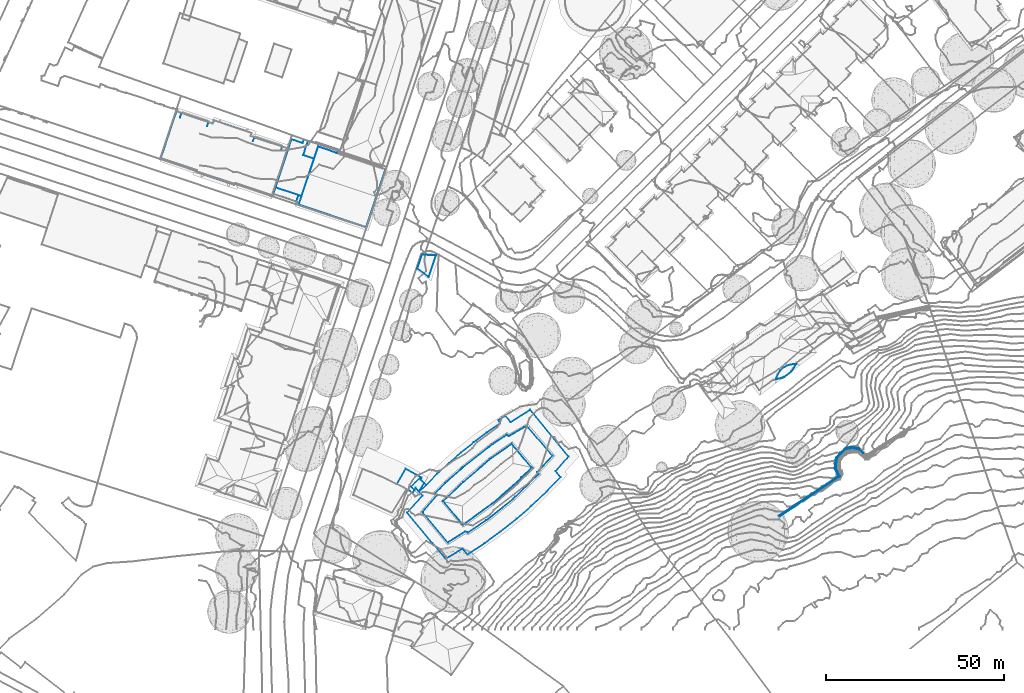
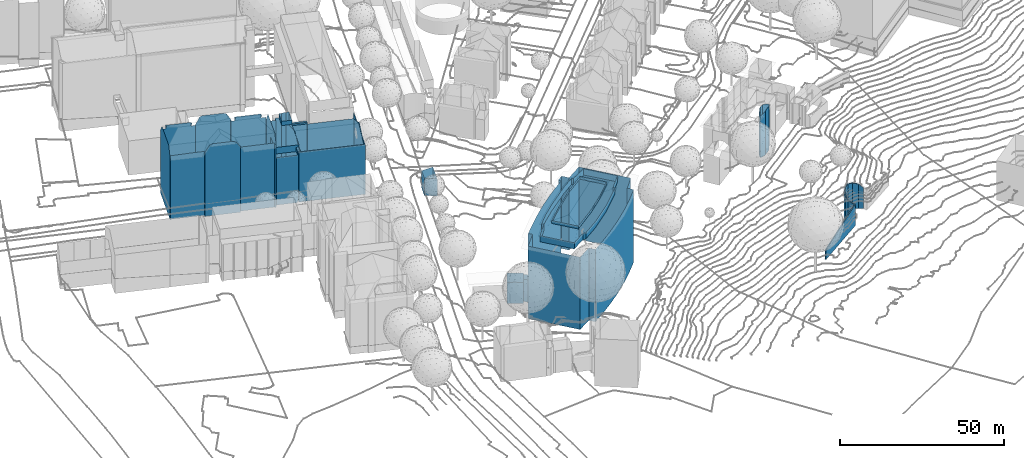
# Not in any storey, part 20 of 494: 6 walls.
"""IFC2X3 model written with IfcOpenShell, lengths in metres."""

from ifc_helpers import new_model, si_unit, frame, origin_with_axes, place, context, subcontext, project, faceted_brep, element, save


model = new_model("IFC2X3")

# Units and contexts
model_context = context("Model", 3, precision=1e-05, world=origin_with_axes())
body_context = subcontext(model_context, "Body", "Model", "MODEL_VIEW")
ifc_project = project(units=[si_unit("AREAUNIT", "SQUARE_METRE"), si_unit("LENGTHUNIT", "METRE")], contexts=[model_context])

# Walls
wall_1_placement = place(None, frame((211.8297320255, 101.9383160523, 526.7541), z_axis=(0.0, 0.0, 1.0), x_axis=(1.0, 0.0, 0.0)))
element("IfcWall", 1, at=wall_1_placement, Name="Wall 5", context=body_context, shape_type="Brep", body=[
    faceted_brep([(-34.2349999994, -56.6416000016, -7.9062), (-34.2729999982, -58.0879000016, -8.6262), (-34.2349999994, -56.6416000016, -17.0633), (-34.6169999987, -58.1572000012, -8.6262), (-34.5759999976, -56.5976999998, -17.0633), (-34.6169999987, -58.1572000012, -17.0633), (-34.0889999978, -59.3066999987, -8.9141), (-34.0889999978, -59.3066999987, -17.0634), (-33.7829999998, -59.1513999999, -8.9141), (-34.2729999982, -58.0879000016, -17.0633), (-33.6050000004, -60.182599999, -9.2021), (-33.6050000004, -60.182599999, -17.0634), (-33.1519999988, -60.2930000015, -9.2021), (-33.7829999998, -59.1513999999, -17.0634), (-50.118999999, -71.6132999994, -13.5207), (-50.3090000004, -71.3280999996, -13.5207), (-50.118999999, -71.6132999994, -17.0633), (-33.1519999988, -60.2930000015, -17.0634), (-50.3090000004, -71.3280999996, -17.0633), (-32.8939999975, -53.9004000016, -6.7543), (-33.9159999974, -55.2714999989, -7.1863), (-32.8939999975, -53.9004000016, -17.0633), (-34.2329999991, -55.125, -7.1863), (-33.1439999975, -53.6620999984, -17.0633), (-34.2329999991, -55.125, -17.0633), (-34.5759999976, -56.5976999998, -7.9062), (-33.9159999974, -55.2714999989, -17.0633), (-33.1439999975, -53.6620999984, -6.7543), (-31.5610000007, -52.3574000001, -6.8983), (-31.4149999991, -52.6816999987, -6.8983), (-31.4149999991, -52.6816999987, -17.0633), (-29.6919999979, -52.4120999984, -7.3303), (-29.6919999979, -52.4120999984, -17.0633), (-27.7089999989, -52.5527999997, -8.0502), (-26.6359999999, -53.8544999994, -9.2021), (-27.7089999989, -52.5527999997, -17.0633), (-27.8649999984, -52.8671999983, -17.0633), (-26.6359999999, -53.8544999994, -17.0634), (-27.8649999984, -52.8671999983, -8.0502), (-29.6769999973, -52.0634999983, -7.3303), (-29.6769999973, -52.0634999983, -17.0633), (-31.5610000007, -52.3574000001, -17.0633)], [[[0, 1, 2]], [[3, 4, 5]], [[6, 5, 7]], [[1, 8, 9]], [[10, 7, 11]], [[8, 12, 13]], [[14, 15, 16]], [[17, 12, 16]], [[14, 16, 12]], [[18, 15, 10]], [[10, 11, 18]], [[19, 20, 21]], [[22, 23, 24]], [[25, 24, 4]], [[20, 0, 26]], [[27, 28, 23]], [[29, 21, 30]], [[31, 30, 32]], [[33, 34, 35]], [[34, 36, 37]], [[38, 32, 36]], [[39, 33, 40]], [[28, 39, 41]], [[1, 9, 2]], [[25, 4, 3]], [[3, 5, 6]], [[8, 13, 9]], [[6, 7, 10]], [[12, 17, 13]], [[15, 18, 16]], [[20, 26, 21]], [[27, 23, 22]], [[22, 24, 25]], [[0, 2, 26]], [[28, 41, 23]], [[19, 21, 29]], [[29, 30, 31]], [[34, 37, 35]], [[38, 36, 34]], [[31, 32, 38]], [[33, 35, 40]], [[39, 40, 41]]]),
])
wall_2_placement = place(None, frame((160.7467320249, 68.8533160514, 524.6524), z_axis=(0.0, 0.0, 1.0), x_axis=(1.0, 0.0, 0.0)))
element("IfcWall", 2, at=wall_2_placement, Name="Wall 0", context=body_context, shape_type="Brep", body=[
    faceted_brep([(5.4290000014, 4.2012000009, 15.5055), (5.6660000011, 4.1621000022, 15.3665), (5.4290000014, 4.2012000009, 0.0), (5.2080000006, 3.4942000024, 0.0), (5.2080000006, 3.4942000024, 15.8244), (4.9690000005, 3.0342000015, 0.0), (4.1750000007, 4.1114000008, 16.0654), (4.1750000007, 4.1114000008, 0.0), (4.382000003, 2.1905000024, 0.0), (4.382000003, 2.1905000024, 16.3644), (4.2740000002, 2.0780999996, 12.3078), (4.2740000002, 2.0780999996, 0.0), (4.694000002, 2.6006000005, 0.0), (4.694000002, 2.6006000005, 16.2144), (4.9700000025, 3.0362000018, 16.0694), (4.9760000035, 3.0488000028, 16.0654), (3.0090000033, 3.7588, 16.4104), (3.0090000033, 3.7588, 0.0), (1.9740000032, 3.1563000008, 16.5274), (1.9740000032, 3.1563000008, 0.0), (1.1090000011, 2.3280999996, 16.4104), (1.1090000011, 2.3280999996, 0.0), (2.2650000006, 0.572300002, 16.3704), (1.9539999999, 0.4356000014, 16.2704), (2.2650000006, 0.572300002, 12.2778), (2.2640000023, 0.572300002, 0.0), (2.2650000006, 0.572300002, 4.0926), (1.9539999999, 0.4356000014, 0.0), (0.4470000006, 1.3037, 16.0654), (0.4470000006, 1.3037, 0.0), (1.4880000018, 0.2734999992, 16.1294), (1.4880000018, 0.2734999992, 9.0111), (1.4880000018, 0.2734999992, 0.0), (1.0109999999, 0.1504000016, 0.0), (1.0109999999, 0.1504000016, 6.9723), (0.5250000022, 0.067400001, 15.7045), (0.5250000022, 0.067400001, 11.7198), (0.0150000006, 0.1231000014, 15.5055), (0.0150000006, 0.1231000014, 0.0), (0.0, 0.0, 0.0), (0.0340000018, 0.0234999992, 0.0), (0.0, 0.0, 15.4335), (5.4050000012, 3.9717000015, 0.0), (5.6660000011, 4.1621000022, 0.0), (5.5320000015, 4.0645000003, 15.5055), (5.4050000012, 3.9717000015, 15.5885), (3.3210000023, 1.3672000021, 16.5274), (2.3710000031, 0.6524000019, 16.4104), (4.2740000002, 2.0780999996, 16.4104), (3.3210000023, 1.3672000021, 0.0), (1.2660000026, 0.2168000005, 16.0654), (1.0109999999, 0.1504000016, 15.9364), (1.2660000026, 0.2168000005, 0.0), (0.0870000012, 0.0283000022, 15.5055), (0.0340000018, 0.0234999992, 15.4675), (0.5250000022, 0.067400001, 0.0)], [[[0, 1, 2]], [[3, 4, 5]], [[6, 0, 7]], [[8, 9, 10]], [[8, 10, 11]], [[9, 12, 13]], [[12, 9, 8]], [[5, 14, 13]], [[13, 12, 5]], [[14, 5, 15]], [[16, 6, 17]], [[18, 16, 19]], [[20, 19, 21]], [[22, 23, 24]], [[25, 26, 23]], [[23, 27, 25]], [[28, 21, 29]], [[23, 30, 27]], [[30, 31, 27]], [[31, 32, 27]], [[33, 34, 35]], [[36, 33, 35]], [[37, 29, 38]], [[39, 40, 41]], [[39, 41, 37]], [[38, 39, 37]], [[42, 43, 1]], [[1, 44, 45]], [[1, 45, 42]], [[10, 46, 47]], [[24, 10, 47]], [[48, 46, 10]], [[26, 11, 10]], [[22, 24, 47]], [[11, 26, 49]], [[26, 25, 49]], [[26, 10, 24]], [[31, 30, 50]], [[31, 50, 51]], [[34, 31, 51]], [[31, 34, 32]], [[52, 32, 34]], [[33, 52, 34]], [[36, 35, 53]], [[36, 53, 54]], [[36, 54, 55]], [[54, 40, 55]], [[1, 43, 2]], [[4, 15, 5]], [[4, 3, 45]], [[42, 45, 3]], [[0, 2, 7]], [[48, 10, 9]], [[6, 7, 17]], [[16, 17, 19]], [[18, 19, 20]], [[26, 24, 23]], [[20, 21, 28]], [[51, 35, 34]], [[55, 33, 36]], [[28, 29, 37]], [[40, 54, 41]]]),
])
wall_3_placement = place(None, frame((60.2177320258, 99.807416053, 527.0553), z_axis=(0.0, 0.0, 1.0), x_axis=(1.0, 0.0, 0.0)))
element("IfcWall", 3, at=wall_3_placement, Name="Wall 0", context=body_context, shape_type="Brep", body=[
    faceted_brep([(1.3100000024, 3.8682000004, 6.4344), (5.2420000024, 3.8145000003, 6.4344), (1.3100000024, 3.8682000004, 0.0), (0.0, 0.0, 6.4344), (0.0, 0.0, 0.0), (3.2190000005, -2.3368999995, 6.4343), (3.2190000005, -2.3368999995, 0.0), (5.2420000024, 3.8145000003, 0.0)], [[[0, 1, 2]], [[3, 0, 4]], [[5, 3, 6]], [[1, 5, 7]], [[1, 7, 2]], [[0, 2, 4]], [[3, 4, 6]], [[5, 6, 7]]]),
])
wall_4_placement = place(None, frame((54.4957320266, 39.4383160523, 525.2974), z_axis=(0.0, 0.0, 1.0), x_axis=(1.0, 0.0, 0.0)))
element("IfcWall", 4, at=wall_4_placement, Name="Wall 0", context=body_context, shape_type="Brep", body=[
    faceted_brep([(31.9250000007, 17.3418000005, 25.2785), (37.3819999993, 20.8027000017, 25.2785), (31.9250000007, 17.3418000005, -1.7479), (30.4200000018, 19.2245999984, 25.2785), (30.4200000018, 19.2245999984, -1.7479), (28.4890000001, 17.9638999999, 25.2785), (28.4890000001, 17.9638999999, -1.7479), (28.9499999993, 17.0243999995, 25.2785), (28.9499999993, 17.0243999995, -1.7479), (25.2219999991, 14.4345999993, 25.2785), (25.2219999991, 14.4345999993, -1.7479), (21.5870000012, 11.7157999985, 25.2785), (21.5870000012, 11.7157999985, -1.7479), (18.0500000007, 8.870099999, 25.2785), (18.0500000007, 8.870099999, -1.7479), (14.6530000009, 5.9393999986, 25.2785), (14.6530000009, 5.9393999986, -1.7479), (11.3590000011, 2.8935000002, 25.2785), (11.3590000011, 2.8935000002, -1.7479), (13.7049999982, -20.9189999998, 25.2785), (2.9010000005, -7.9785000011, 25.2785), (13.7049999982, -20.9189999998, -1.7479), (18.4660000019, -18.0859999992, 25.2785), (18.4660000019, -18.0859999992, -1.7479), (19.824000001, -19.7129000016, 25.2785), (19.824000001, -19.7129000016, -1.7479), (24.5500000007, -16.5898999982, 25.2785), (24.5500000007, -16.5898999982, -1.7479), (29.1330000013, -13.2608000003, 25.2785), (29.1330000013, -13.2608000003, -1.7479), (33.5639999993, -9.7324000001, 25.2785), (33.5639999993, -9.7324000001, -1.7479), (37.8350000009, -6.0117000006, 25.2785), (37.8350000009, -6.0117000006, -1.7479), (41.936999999, -2.1044999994, 25.2785), (41.936999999, -2.1044999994, -1.7479), (45.8619999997, 1.9805000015, 25.2785), (45.8619999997, 1.9803999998, -1.7479), (44.5139999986, 3.6162, 25.2785), (44.5139999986, 3.6162, -1.7479), (48.1380000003, 7.754900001, 25.2785), (48.1380000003, 7.754900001, -1.7479), (37.3819999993, 20.8027000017, -1.7479), (19.1799999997, -13.2685999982, 25.2785), (19.1799999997, -13.2685999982, 27.6643), (19.1539999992, -13.2842000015, 27.6573), (18.5300000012, 0.5067999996, 28.2982), (18.5309999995, 0.5078000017, 28.7112), (23.8339999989, 5.0507999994, 28.2982), (26.0760000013, 6.9717000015, 29.1862), (26.0760000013, 6.9717000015, 28.2562), (24.9549999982, 6.0117000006, 28.2772), (30.6220000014, -2.0967000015, 28.2012), (32.7760000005, -0.2490000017, 28.1942), (32.7760000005, -0.2490000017, 29.1751), (29.9050000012, -2.7129000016, 28.2032), (26.6779999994, -5.4814999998, 28.1662), (29.0240000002, -3.4677999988, 28.1972), (6.5139999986, 1.754900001, 0.0), (6.7509999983, 1.5088, 0.0), (6.5139999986, 1.754900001, -0.386), (3.993999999, -0.6651000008, 0.0), (3.993999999, -0.6651000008, -0.386), (4.9389999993, -1.6484999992, 0.0), (4.9389999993, -1.6484999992, -0.386), (2.5009999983, 4.2705000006, 7.9202), (6.8920000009, 1.7558000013, 7.9202), (2.5009999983, 4.2705000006, 0.0), (0.0, 0.0, 7.9202), (0.0, 0.0, 0.0), (2.0130000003, -1.0263999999, 7.9202), (2.0130000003, -1.0263999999, 0.0), (3.1609999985, -1.7362999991, 7.9202), (3.1609999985, -1.7362999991, 0.0), (4.4609999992, -2.4765999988, 7.9202), (4.4609999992, -2.4765999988, 0.0), (7.6240000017, 0.2754000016, 7.9202), (6.1860000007, -2.0498000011, 7.9202), (7.6240000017, 0.2754000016, 6.8753), (7.2030000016, -3.2236000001, 25.2785), (2.9010000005, -7.9785000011, -1.7479), (7.2030000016, -3.2236000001, -1.7479), (6.2659999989, -2.1416000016, -0.386), (8.1710000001, -0.2637000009, -0.386), (6.2659999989, -2.1416000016, -1.7479), (6.2659999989, -2.1416000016, 6.8753), (6.2659999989, -2.1416000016, 25.2785), (8.1710000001, -0.2637000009, 6.8753), (8.1710000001, -0.2637000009, 25.2785), (8.1710000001, -0.2637000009, -1.7479), (39.3729999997, 3.3271000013, 27.6503), (39.4919999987, 3.129900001, 27.5943), (39.3729999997, 3.3271000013, 25.2785), (39.4919999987, 3.129900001, 25.2785), (39.7080000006, 2.7685000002, 27.5943), (39.7080000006, 2.7685000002, 25.2785), (19.9820000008, -13.5537, 27.6333), (19.8159999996, -13.4941999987, 27.6643), (19.9820000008, -13.5537, 25.2785), (25.7670000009, -9.6504000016, 27.6263), (25.0489999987, -10.1358000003, 25.2785), (25.7670000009, -9.6504000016, 25.2785), (25.0489999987, -10.1358000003, 27.6333), (14.9730000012, -15.933600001, 27.6573), (14.3150000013, -16.3506000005, 27.5783), (14.3150000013, -16.3506000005, 25.2785), (7.3269999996, -7.9990000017, 27.5783), (7.3269999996, -7.9990000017, 25.2785), (7.1739999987, -7.816399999, 27.5773), (7.1739999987, -7.816399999, 25.2785), (11.2589999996, -3.0898999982, 27.6673), (10.9299999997, -2.6376999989, 27.5273), (11.2589999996, -3.0898999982, 25.2785), (10.8139999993, -2.4776000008, 27.5273), (10.8139999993, -2.4776000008, 25.2785), (11.6710000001, -1.6182000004, 27.5273), (13.568, 0.2831999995, 25.2785), (13.568, 0.2831999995, 27.6373), (13.9100000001, 0.625, 27.6373), (13.9100000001, 0.625, 25.2785), (7.7609999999, -7.1376999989, 27.6633), (7.7609999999, -7.1376999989, 25.2785), (11.1409999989, -3.2256000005, 27.6633), (39.4809999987, 2.5478000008, 27.6353), (39.4809999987, 2.5478000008, 25.2785), (33.1700000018, -3.5742000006, 25.2785), (33.1700000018, -3.5742000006, 27.6353), (32.6700000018, -4.0606000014, 27.6283), (32.6710000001, -4.0595999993, 25.2785), (32.5289999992, -4.1748000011, 27.6303), (26.5179999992, -9.0430000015, 27.6303), (18.2829999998, 4.4891999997, 27.6383), (18.631000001, 4.7626999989, 27.6393), (18.2829999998, 4.4891999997, 25.2785), (18.631000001, 4.7626999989, 25.2785), (25.7490000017, 10.3583999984, 25.2785), (25.7490000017, 10.3583999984, 27.6393), (26.5780000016, 11.0106999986, 25.2785), (26.3979999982, 10.8691000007, 27.6343), (26.5789999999, 11.0117000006, 27.6353), (14.245000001, 0.9219000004, 27.6433), (17.9789999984, 4.2206999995, 25.2785), (17.9789999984, 4.2206999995, 27.6433), (36.4640000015, 16.3398000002, 25.2785), (36.4640000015, 16.3398000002, 27.5823), (37.0020000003, 15.7089999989, 25.2785), (37.0020000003, 15.7089999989, 27.5803), (43.6039999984, 7.9677999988, 25.2785), (43.6039999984, 7.9677999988, 27.5803), (31.307, 13.4111000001, 27.6813), (31.5080000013, 13.5254000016, 27.6783), (31.307, 13.4111000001, 25.2785), (35.6939999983, 15.9023000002, 25.2785), (35.6939999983, 15.9023000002, 27.6783), (30.8099999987, 13.8555000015, 25.2785), (30.8949999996, 13.7793000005, 27.5273), (30.8099999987, 13.8555000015, 27.5273), (27.1959999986, 11.4266999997, 27.6483), (30.0579999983, 13.3506000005, 27.5273), (30.0579999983, 13.3506000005, 25.2785), (27.7419999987, 8.1387000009, 29.1732), (27.0590000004, 7.6592000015, 28.2632), (29.0769999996, 9.0731999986, 28.2982), (32.2089999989, 11.2685000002, 29.2871), (32.2089999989, 11.2685000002, 28.2982), (13.6799999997, -4.1279000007, 28.2982), (13.0229999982, -4.7558999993, 29.2891), (13.0229999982, -4.7558999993, 28.2103), (18.061999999, 0.0595999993, 29.1732), (18.5309999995, 0.5078000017, 29.1762), (34.8909999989, 1.807599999, 28.2132), (34.0760000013, 1.0155999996, 28.2122), (33.3900000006, 0.3486000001, 29.1731), (37.7690000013, 4.6064000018, 29.2911), (34.9970000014, 1.9111000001, 28.1932), (37.7690000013, 4.6064000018, 28.1612), (32.3330000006, 11.120099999, 29.3351), (32.9549999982, 10.375, 28.2982), (37.4479999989, 4.9912, 28.2852), (37.6579999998, 4.7391999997, 29.3361), (37.6570000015, 4.7382999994, 28.2042), (18.5729999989, -11.4052999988, 29.2931), (18.4660000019, -11.2773999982, 29.3351), (18.3590000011, -11.1484999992, 28.2362), (18.5729999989, -11.4052999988, 28.1502), (17.743999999, -10.4120999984, 28.2362), (13.1420000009, -4.8975000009, 29.3351), (26.6779999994, -5.4814999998, 29.1801), (24.4739999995, -7.0927999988, 29.1731), (23.9930000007, -7.4433999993, 28.1842), (19.7320000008, -10.558600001, 28.1922), (18.9180000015, -11.1532999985, 28.1842), (18.8170000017, -11.2276000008, 28.1552), (6.8920000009, 1.7558000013, 0.0), (6.6140000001, 1.2694999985, 7.9202), (6.6140000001, 1.2694999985, -0.386), (6.7509999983, 1.5088, -0.386), (5.2989999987, -1.0254000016, 7.9202), (5.2989999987, -1.0254000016, -0.386), (6.1860000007, -2.0498000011, 6.8753), (43.1499999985, 7.4697000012, 27.6523), (40.0489999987, 4.0683000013, 27.6524), (40.0780000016, 4.1006000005, 25.2785), (39.563000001, 3.5361000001, 27.6523), (39.563000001, 3.5361000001, 25.2785)], [[[0, 1, 2]], [[3, 0, 4]], [[5, 3, 6]], [[7, 5, 8]], [[9, 7, 10]], [[11, 9, 12]], [[13, 11, 14]], [[15, 13, 16]], [[17, 15, 18]], [[19, 20, 21]], [[22, 19, 23]], [[24, 22, 25]], [[26, 24, 27]], [[28, 26, 29]], [[30, 28, 31]], [[32, 30, 33]], [[34, 32, 35]], [[36, 34, 37]], [[38, 36, 39]], [[40, 38, 41]], [[1, 40, 42]], [[43, 44, 45]], [[46, 47, 48]], [[49, 50, 47]], [[48, 47, 51]], [[52, 53, 54]], [[54, 55, 52]], [[54, 56, 57]], [[54, 57, 55]], [[58, 59, 60]], [[61, 58, 62]], [[63, 61, 64]], [[65, 66, 67]], [[68, 67, 69]], [[70, 69, 71]], [[72, 70, 73]], [[74, 72, 75]], [[76, 77, 78]], [[20, 79, 80]], [[79, 81, 80]], [[82, 83, 84]], [[85, 86, 87]], [[88, 17, 87]], [[83, 18, 89]], [[83, 87, 18]], [[18, 87, 17]], [[90, 91, 92]], [[92, 91, 93]], [[93, 94, 95]], [[94, 93, 91]], [[96, 97, 98]], [[97, 44, 98]], [[44, 43, 98]], [[99, 100, 101]], [[102, 96, 100]], [[98, 100, 96]], [[102, 100, 99]], [[43, 45, 103]], [[103, 104, 105]], [[105, 43, 103]], [[104, 106, 105]], [[105, 106, 107]], [[107, 108, 109]], [[108, 107, 106]], [[110, 111, 112]], [[112, 111, 113]], [[113, 114, 112]], [[115, 114, 113]], [[115, 116, 114]], [[117, 118, 116]], [[119, 116, 118]], [[117, 116, 115]], [[108, 120, 121]], [[121, 109, 108]], [[120, 122, 121]], [[122, 110, 112]], [[122, 112, 121]], [[94, 123, 124]], [[124, 95, 94]], [[123, 125, 124]], [[126, 127, 128]], [[128, 125, 126]], [[126, 125, 123]], [[127, 129, 128]], [[129, 101, 128]], [[130, 99, 101]], [[130, 101, 129]], [[131, 132, 133]], [[132, 134, 133]], [[135, 134, 136]], [[134, 132, 136]], [[137, 135, 138]], [[137, 138, 139]], [[138, 135, 136]], [[118, 140, 119]], [[140, 141, 119]], [[142, 131, 133]], [[133, 141, 142]], [[142, 141, 140]], [[143, 144, 145]], [[145, 144, 146]], [[146, 147, 145]], [[147, 146, 148]], [[149, 150, 151]], [[150, 152, 151]], [[153, 144, 152]], [[143, 152, 144]], [[153, 152, 150]], [[151, 154, 155]], [[155, 154, 156]], [[151, 155, 149]], [[139, 157, 137]], [[157, 158, 137]], [[154, 159, 156]], [[158, 159, 137]], [[50, 49, 160]], [[161, 50, 160]], [[162, 160, 163]], [[162, 161, 160]], [[164, 162, 163]], [[165, 166, 47]], [[165, 167, 166]], [[166, 168, 47]], [[46, 165, 47]], [[47, 168, 169]], [[170, 54, 171]], [[172, 170, 173]], [[173, 174, 175]], [[174, 173, 170]], [[171, 54, 53]], [[54, 170, 172]], [[163, 176, 177]], [[177, 164, 163]], [[176, 178, 177]], [[179, 173, 180]], [[180, 178, 179]], [[175, 180, 173]], [[179, 178, 176]], [[181, 182, 183]], [[184, 181, 183]], [[182, 185, 183]], [[185, 186, 167]], [[186, 185, 182]], [[166, 167, 186]], [[56, 187, 188]], [[188, 181, 189]], [[189, 181, 190]], [[188, 189, 56]], [[191, 190, 181]], [[184, 192, 191]], [[191, 181, 184]], [[66, 59, 193]], [[59, 66, 194]], [[59, 195, 196]], [[195, 59, 194]], [[197, 63, 198]], [[63, 197, 74]], [[198, 63, 64]], [[75, 63, 74]], [[194, 78, 195]], [[78, 194, 76]], [[195, 78, 83]], [[87, 83, 78]], [[79, 86, 85]], [[85, 81, 79]], [[82, 81, 85]], [[77, 197, 199]], [[199, 197, 198]], [[199, 82, 85]], [[198, 82, 199]], [[200, 201, 148]], [[148, 202, 147]], [[148, 201, 202]], [[203, 90, 92]], [[204, 202, 201]], [[201, 92, 204]], [[201, 203, 92]], [[1, 42, 2]], [[0, 2, 4]], [[3, 4, 6]], [[5, 6, 8]], [[7, 8, 10]], [[9, 10, 12]], [[11, 12, 14]], [[13, 14, 16]], [[15, 16, 18]], [[20, 80, 21]], [[19, 21, 23]], [[22, 23, 25]], [[24, 25, 27]], [[26, 27, 29]], [[28, 29, 31]], [[30, 31, 33]], [[32, 33, 35]], [[34, 35, 37]], [[36, 37, 39]], [[38, 39, 41]], [[40, 41, 42]], [[49, 47, 169]], [[51, 47, 50]], [[187, 56, 54]], [[59, 196, 60]], [[58, 60, 62]], [[61, 62, 64]], [[66, 193, 67]], [[65, 67, 68]], [[68, 69, 70]], [[70, 71, 73]], [[72, 73, 75]], [[77, 199, 78]], [[83, 89, 84]], [[86, 88, 87]], [[159, 158, 156]], [[82, 84, 81]]]),
])
wall_5_placement = place(None, frame((-11.7152679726, 130.4334160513, 524.4966), z_axis=(0.0, 0.0, 1.0), x_axis=(1.0, 0.0, 0.0)))
element("IfcWall", 5, at=wall_5_placement, Name="Wall 0", context=body_context, shape_type="Brep", body=[
    faceted_brep([(25.8889999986, 4.8838, 25.8985), (26.3079999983, 6.1357000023, 25.4776), (26.3079999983, 6.1357000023, 24.0247), (34.0810000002, 3.5381000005, 25.4756), (33.6609999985, 2.2831999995, 25.8985), (34.0810000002, 3.5381000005, 24.0187), (25.5289999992, 7.3447000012, 24.3077), (25.243999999, 6.4902000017, 24.3067), (25.5289999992, 7.3447000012, 18.2303), (25.5289999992, 7.3447000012, 6.0764), (25.243999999, 6.4902000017, 6.0764), (25.5289999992, 7.3447000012, 0.0), (25.243999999, 6.4902000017, 18.2303), (25.243999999, 6.4902000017, 0.0), (35.5949999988, 3.0322000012, 15.0106), (35.930999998, 4.0507999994, 22.4928), (35.5949999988, 3.0322000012, 6.0044), (35.5949999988, 3.0322000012, 0.0), (35.930999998, 4.0507999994, 0.0), (36.1789999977, 3.9678000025, 22.4928), (36.1789999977, 3.9678000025, 0.0), (0.1739999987, -0.057599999, 23.3138), (0.0, 0.0, 23.3118), (0.1739999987, -0.057599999, 0.0), (0.0, 0.0, 13.1118), (0.2760000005, 0.2344000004, 23.7168), (0.2760000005, 0.2344000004, 17.7873), (0.2760000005, 0.2344000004, 5.9295), (0.2760000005, 0.2344000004, 0.0), (10.307, -3.1026999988, 0.0), (10.307, -3.1024999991, 23.9387), (10.2540000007, -3.0858999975, 23.8477), (10.2540000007, -3.0858999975, 17.8633), (10.2540000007, -3.0858999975, 5.8934), (10.2540000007, -3.0858999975, 0.0), (30.9609999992, -9.9725999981, 0.0), (30.8640000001, -10.2665999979, 23.4877), (30.9609999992, -9.9726999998, 11.9498), (30.8640000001, -10.2665999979, 0.0), (20.8929999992, -6.623999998, 24.2497), (20.7039999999, -7.1933999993, 24.2467), (20.7899999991, -6.932599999, 9.7551), (20.8929999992, -6.623999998, 12.1248), (20.8929999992, -6.623999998, 6.0624), (20.8929999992, -6.623999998, 0.0), (20.7039999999, -7.1933999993, 18.1843), (20.7039999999, -7.1933999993, 12.1218), (20.7039999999, -7.1932999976, 6.0594), (20.7039999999, -7.1933999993, 0.0), (4.6490000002, 13.8965000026, 23.3738), (4.7289999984, 13.8691000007, 23.3738), (4.6490000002, 13.8965000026, 17.5304), (4.6490000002, 13.8965000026, 11.6869), (4.8399999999, 13.8320000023, 0.0), (4.6490000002, 13.8965000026, 0.0), (4.8399999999, 13.8320000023, 5.8435), (4.8399999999, 13.8320000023, 11.6869), (5.5029999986, 11.7910000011, 25.7856), (5.4809999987, 11.7266000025, 25.8826), (5.8859999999, 12.9365000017, 25.4226), (5.8859999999, 12.9365000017, 24.1217), (13.4479999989, 10.4141000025, 25.4196), (13.0409999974, 9.1963, 25.8825), (13.4479999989, 10.4141000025, 24.0577), (25.4089999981, 6.4354999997, 24.0257), (35.5949999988, 3.0322000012, 24.0167), (34.0810000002, 3.5381000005, 0.0), (26.3079999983, 6.1357000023, 0.0), (0.6959999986, 2.0800999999, 0.0), (0.0, 0.0, 0.0), (0.199000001, 0.5956999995, 24.1287), (0.6959999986, 2.0800999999, 26.3295), (6.1860000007, -1.7313999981, 23.8377), (6.1860000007, -1.7313999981, 0.0), (2.3319999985, -0.4492000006, 23.7387), (10.1180000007, -3.6719000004, 0.0), (10.1180000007, -3.6719000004, 23.9407), (31.3609999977, -10.4316000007, 0.0), (31.3609999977, -10.4316000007, 23.4897), (32.0379999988, -8.4091999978, 26.3295), (35.3229999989, 1.4081999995, 26.3295), (32.0379999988, -8.4091999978, 0.0), (35.3229999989, 1.4081999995, 0.0), (20.8929999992, -6.623999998, 18.1873), (25.3880000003, -8.1191000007, 23.8867), (21.1119999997, -6.6963, 23.8757), (30.9609999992, -9.9726999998, 23.9007), (4.7069999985, 13.4316000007, 0.0), (4.675999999, 13.3388999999, 0.0), (4.7069999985, 13.4316000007, 24.0047), (4.675999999, 13.3388999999, 24.1387), (4.8399999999, 13.8320000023, 17.5304), (4.8399999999, 13.8320000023, 23.3748), (4.5089999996, 13.4766000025, 24.0347), (3.9809999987, 11.8965000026, 26.3295), (3.756000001, 11.2226999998, 26.3825), (4.5089999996, 13.4766000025, 0.0), (3.9809999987, 11.8965000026, 0.0), (3.756000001, 11.2226999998, 0.0), (14.8519999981, 10.6201000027, 23.1458), (14.9479999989, 10.9062000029, 23.1468), (14.9479999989, 10.9062000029, 0.0), (14.6499999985, 10.0137000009, 24.0557), (14.6499999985, 10.0137000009, 0.0), (14.8519999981, 10.6201000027, 0.0), (10.3200000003, 11.4570000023, 0.0), (19.4820000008, -6.7870999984, 0.0), (12.4450000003, -4.4452999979, 0.0), (18.4509999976, -6.4442999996, 0.0), (11.5, -4.1317999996, 0.0), (19.4820000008, -6.7870999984, 26.3285), (18.4509999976, -6.4442999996, 26.7634), (12.4450000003, -4.4452999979, 26.7594), (11.5, -4.1317999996, 26.3285), (16.3709999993, 10.4277000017, 0.0), (17.2430000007, 10.1338, 0.0), (23.3889999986, 8.0645000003, 0.0), (24.3420000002, 7.7432000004, 0.0), (17.2430000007, 10.1338, 26.7265), (23.3889999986, 8.0645000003, 26.7314), (24.3420000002, 7.7432000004, 26.3285), (16.3709999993, 10.4277000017, 26.3285), (0.8719999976, 2.6074000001, 26.3825), (0.8719999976, 2.6074000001, 0.0), (2.3990000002, 7.1709000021, 0.0), (2.3990000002, 7.1709000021, 26.3285)], [[[0, 1, 2]], [[3, 4, 5]], [[6, 7, 8]], [[9, 10, 11]], [[12, 8, 7]], [[10, 13, 11]], [[14, 15, 16]], [[16, 15, 17]], [[15, 18, 17]], [[18, 15, 19]], [[20, 18, 19]], [[21, 22, 23]], [[24, 23, 22]], [[25, 21, 26]], [[27, 23, 28]], [[29, 30, 31]], [[32, 29, 31]], [[33, 34, 29]], [[35, 36, 37]], [[36, 35, 38]], [[39, 40, 41]], [[42, 41, 43]], [[43, 41, 44]], [[45, 41, 40]], [[46, 41, 45]], [[47, 48, 41]], [[41, 48, 44]], [[49, 50, 51]], [[52, 53, 54]], [[55, 50, 56]], [[57, 58, 59]], [[59, 60, 57]], [[61, 62, 63]], [[1, 3, 5]], [[5, 14, 2]], [[1, 5, 2]], [[7, 64, 12]], [[2, 14, 12]], [[10, 12, 14]], [[2, 12, 64]], [[5, 65, 14]], [[14, 16, 10]], [[17, 66, 16]], [[67, 13, 10]], [[66, 67, 10]], [[10, 16, 66]], [[68, 69, 24]], [[22, 70, 24]], [[71, 24, 70]], [[24, 71, 68]], [[31, 72, 32]], [[73, 33, 27]], [[73, 34, 33]], [[27, 33, 32]], [[26, 32, 72]], [[74, 25, 26]], [[26, 27, 32]], [[73, 27, 28]], [[72, 74, 26]], [[75, 76, 30]], [[30, 29, 75]], [[38, 77, 78]], [[78, 36, 38]], [[79, 78, 80]], [[19, 80, 78]], [[78, 81, 19]], [[81, 82, 19]], [[20, 19, 82]], [[78, 77, 81]], [[42, 43, 35]], [[43, 44, 35]], [[35, 37, 83]], [[84, 85, 37]], [[35, 83, 42]], [[85, 39, 83]], [[85, 83, 37]], [[86, 84, 37]], [[53, 55, 87]], [[88, 87, 55]], [[55, 56, 88]], [[89, 90, 91]], [[91, 92, 89]], [[56, 91, 90]], [[90, 88, 56]], [[93, 49, 51]], [[94, 93, 95]], [[95, 93, 51]], [[95, 51, 52]], [[52, 54, 96]], [[52, 97, 98]], [[97, 52, 96]], [[52, 98, 95]], [[99, 100, 101]], [[102, 99, 103]], [[104, 103, 99]], [[101, 104, 99]], [[60, 88, 90]], [[105, 88, 60]], [[60, 59, 61]], [[63, 102, 103]], [[63, 105, 60]], [[103, 105, 63]], [[63, 60, 61]], [[106, 48, 47]], [[46, 45, 107]], [[108, 47, 46]], [[108, 106, 47]], [[107, 108, 46]], [[45, 109, 107]], [[75, 40, 110]], [[75, 110, 111]], [[75, 111, 112]], [[45, 75, 109]], [[76, 75, 112]], [[113, 76, 112]], [[75, 45, 40]], [[101, 100, 114]], [[114, 100, 115]], [[116, 115, 9]], [[9, 117, 116]], [[9, 11, 117]], [[100, 9, 115]], [[100, 118, 8]], [[118, 119, 8]], [[120, 6, 119]], [[6, 8, 119]], [[8, 9, 100]], [[121, 118, 100]], [[71, 122, 123]], [[123, 68, 71]], [[122, 124, 123]], [[125, 95, 98]], [[98, 124, 125]], [[125, 124, 122]], [[9, 8, 10]], [[10, 8, 12]], [[65, 15, 14]], [[69, 23, 24]], [[21, 27, 26]], [[21, 23, 27]], [[32, 33, 29]], [[86, 37, 36]], [[39, 41, 83]], [[42, 83, 41]], [[46, 47, 41]], [[52, 51, 50]], [[50, 53, 52]], [[92, 91, 50]], [[91, 56, 50]], [[53, 50, 55]]]),
])
wall_6_placement = place(None, frame((19.7027320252, 120.1717160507, 524.8305), z_axis=(0.0, 0.0, 1.0), x_axis=(1.0, 0.0, 0.0)))
element("IfcWall", 6, at=wall_6_placement, Name="Wall 0", context=body_context, shape_type="Brep", body=[
    faceted_brep([(9.9170000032, 15.4033000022, 20.1371), (8.7740000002, 15.8027000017, 0.0001), (8.7740000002, 15.8027000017, 20.1371), (9.9160000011, 15.3994000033, 0.0001), (10.6570000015, 15.1513000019, 0.0001), (8.4350000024, 14.7881000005, 20.1371), (8.4350000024, 14.7881000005, 0.0001), (5.3000000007, 15.8369000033, 20.1371), (5.3000000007, 15.8369000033, 0.0001), (26.3020000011, -8.9433999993, 19.2962), (6.6390000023, -2.3993999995, 19.2962), (26.3020000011, -8.9433999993, 0.6959), (6.8770000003, -1.6767999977, 19.2962), (6.6390000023, -2.3993999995, 0.696), (0.3020000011, 0.5117000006, 17.6974), (0.1190000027, -0.0400999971, 17.6974), (0.3020000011, 0.5117000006, 0.0), (0.0, 0.0, 17.6974), (0.1190000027, -0.0400999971, 0.0), (6.6290000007, -1.5946999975, 19.2962), (7.2390000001, 0.2246000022, 19.2962), (6.6290000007, -1.5937999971, 17.6973), (8.0940000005, -0.0605999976, 0.696), (7.2390000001, 0.2246000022, 0.0), (8.0940000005, -0.0605999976, 0.0), (8.0940000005, -0.0605999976, 20.1371), (8.0940000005, -0.0605999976, 19.2962), (0.7960000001, 2.3818000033, 20.1371), (0.7960000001, 2.3818000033, 17.6974), (7.2390000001, 0.2246000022, 17.6973), (7.2390000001, 0.2246000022, 0.696), (6.6290000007, -1.5937999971, 0.0), (12.0890000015, 14.8545000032, 21.732), (12.1020000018, 14.8925999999, 21.732), (12.0890000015, 14.8545000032, 0.0001), (10.7140000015, 15.3154000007, 21.732), (10.7140000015, 15.3154000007, 0.0001), (18.2590000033, 12.8330000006, 17.6964), (17.9890000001, 12.0312000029, 17.0864), (18.2590000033, 12.8330000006, 0.696), (17.9890000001, 12.0303000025, 17.6963), (10.6570000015, 15.1513000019, 20.1371), (10.6520000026, 15.1377000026, 20.1371), (10.6520000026, 15.1377000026, 21.732), (9.9160000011, 15.3994000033, 21.732), (8.5840000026, 11.4179000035, 21.732), (8.5840000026, 11.4179000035, 20.1371), (11.5980000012, 10.4101000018, 21.732), (11.5980000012, 10.4101000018, 20.1371), (7.2980000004, -2.4423999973, 19.2962), (26.1960000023, -8.7655999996, 19.2962), (7.2980000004, -2.4423999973, 17.5354), (30.1030000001, 2.9043000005, 19.3042), (31.6280000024, 7.4668000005, 19.2962), (31.6280000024, 7.4668000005, 17.0864), (12.7290000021, 13.7920000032, 17.6964), (0.0, 0.0, 0.0), (0.7960000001, 2.3818000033, 0.0), (6.8770000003, -1.6767999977, 0.696), (6.6290000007, -1.5946999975, 0.696), (17.9890000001, 12.0303000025, 0.696), (31.6280000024, 7.4668000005, 0.696), (31.7660000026, 7.4209000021, 19.2962), (31.7660000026, 7.4209000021, 0.696), (12.1020000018, 14.8925999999, 0.0001), (12.9979999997, 14.5928000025, 17.6964), (12.9979999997, 14.5928000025, 0.696), (12.9979999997, 14.5928000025, 0.0001), (12.9979999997, 14.5928000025, 21.732), (12.7290000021, 13.7920000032, 0.696), (12.7290000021, 13.7920000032, 0.0001), (11.5980000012, 10.4101000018, 0.696), (11.5980000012, 10.4101000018, 0.0), (10.6410000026, 7.5488000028, 20.1371), (12.7290000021, 13.7920000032, 17.0864), (8.0940000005, -0.0605999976, 18.4453), (9.575000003, 4.3652000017, 20.1371), (27.5190000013, -4.8125, 19.2962), (26.1960000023, -8.7655999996, 17.5353), (29.0730000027, -0.1728999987, 20.82), (28.9680000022, -0.4882999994, 21.396), (10.1730000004, 6.1523000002, 20.8201), (30.2420000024, 2.8574000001, 0.696), (30.2420000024, 2.8574000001, 19.3032), (29.307, 0.0556000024, 0.696), (30.5040000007, 3.6406000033, 19.3032), (30.5040000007, 3.6406000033, 0.696), (29.307, 0.0556000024, 21.03), (27.6650000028, -4.8622999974, 19.2962), (27.6650000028, -4.8622999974, 0.6959), (29.1090000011, -0.5351999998, 0.696), (29.1090000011, -0.5351999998, 21.396)], [[[0, 1, 2]], [[3, 0, 4]], [[5, 2, 6]], [[7, 5, 8]], [[9, 10, 11]], [[10, 12, 13]], [[14, 15, 16]], [[15, 17, 18]], [[19, 20, 21]], [[22, 23, 24]], [[25, 20, 26]], [[20, 25, 27]], [[20, 28, 29]], [[28, 20, 27]], [[30, 31, 23]], [[32, 33, 34]], [[35, 32, 36]], [[37, 38, 39]], [[40, 38, 37]], [[41, 42, 43]], [[41, 35, 36]], [[35, 41, 43]], [[41, 36, 4]], [[44, 42, 0]], [[45, 44, 46]], [[47, 45, 48]], [[49, 50, 51]], [[52, 53, 54]], [[40, 55, 38]], [[56, 17, 28]], [[28, 7, 8]], [[7, 28, 27]], [[8, 57, 28]], [[28, 57, 56]], [[21, 58, 12]], [[21, 59, 58]], [[12, 19, 21]], [[14, 16, 59]], [[31, 59, 16]], [[59, 21, 14]], [[60, 38, 61]], [[61, 38, 54]], [[53, 62, 54]], [[54, 63, 61]], [[63, 54, 62]], [[64, 65, 66]], [[65, 64, 33]], [[67, 64, 66]], [[68, 65, 33]], [[37, 39, 65]], [[65, 39, 66]], [[69, 70, 66]], [[71, 70, 69]], [[71, 22, 72]], [[72, 22, 24]], [[65, 68, 55]], [[68, 48, 55]], [[47, 48, 68]], [[73, 74, 48]], [[48, 74, 55]], [[75, 76, 26]], [[26, 76, 25]], [[49, 51, 75]], [[49, 75, 26]], [[50, 77, 78]], [[77, 79, 78]], [[80, 52, 79]], [[80, 79, 77]], [[76, 81, 73]], [[82, 83, 84]], [[85, 83, 86]], [[63, 62, 86]], [[86, 62, 85]], [[83, 82, 86]], [[83, 87, 88]], [[88, 9, 89]], [[90, 83, 88]], [[84, 83, 90]], [[11, 89, 9]], [[90, 88, 89]], [[88, 87, 91]], [[3, 1, 0]], [[0, 41, 4]], [[2, 1, 6]], [[5, 6, 8]], [[10, 13, 11]], [[12, 58, 13]], [[15, 18, 16]], [[17, 56, 18]], [[20, 29, 21]], [[30, 23, 22]], [[59, 31, 30]], [[33, 64, 34]], [[32, 34, 36]], [[38, 60, 39]], [[43, 42, 44]], [[44, 0, 46]], [[45, 46, 48]], [[50, 78, 51]], [[55, 74, 38]], [[70, 67, 66]], [[72, 70, 71]]]),
])

save(model, "model.ifc")
